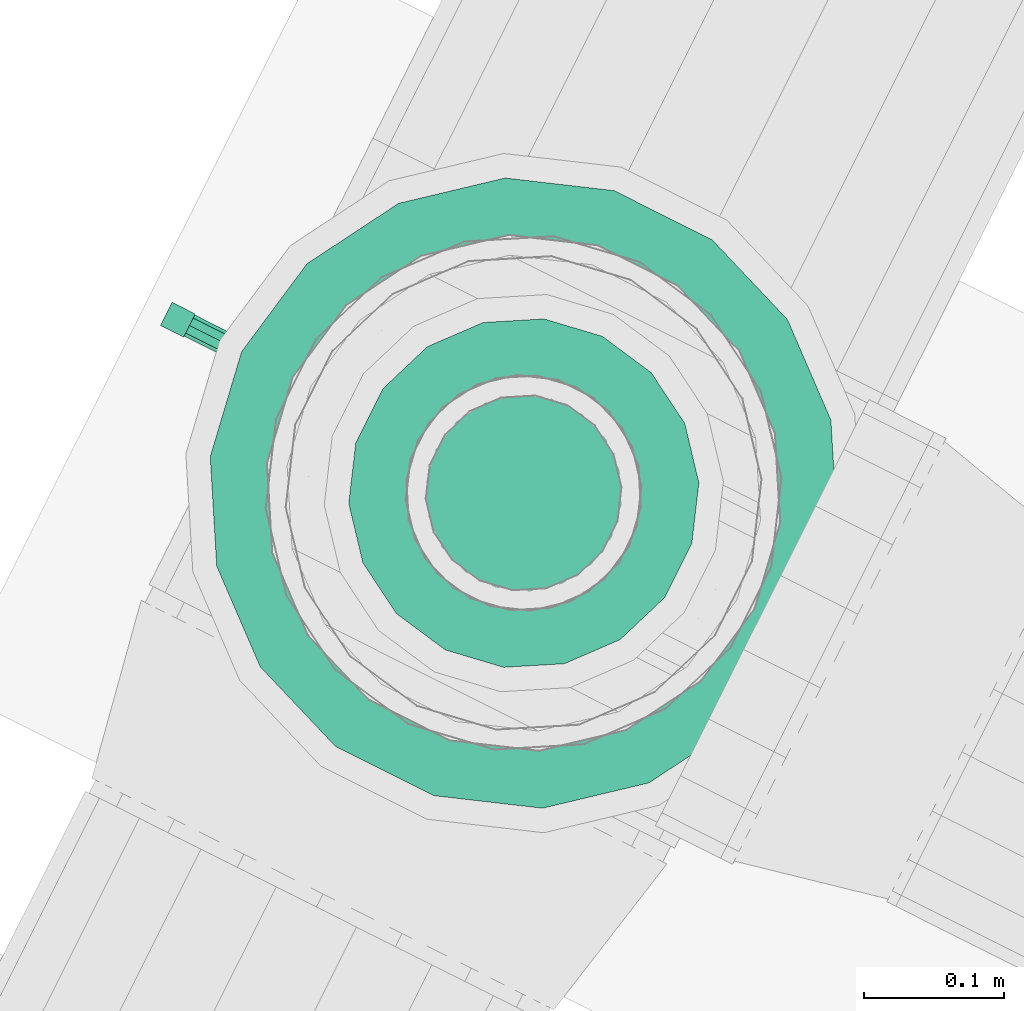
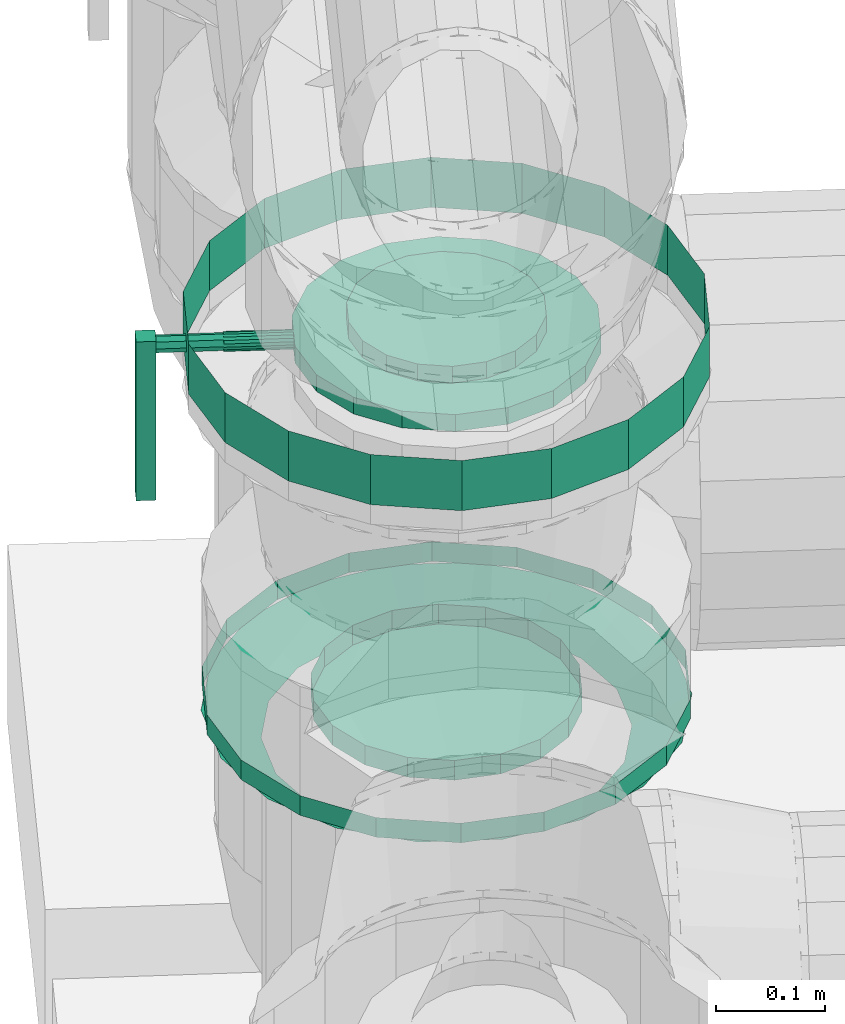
# One storey, part 106 of 152: 1 flow controller, 1 flow fitting.
"""IFC2X3 building model written with IfcOpenShell, lengths in metres."""

from ifc_helpers import new_model, si_unit, derived_unit, direction, frame, origin, place, context, subcontext, project, spatial, face_set, surface_model, source, transform, mapped, material, type_object, type_shapes, element, save


model = new_model("IFC2X3")

# Units and contexts
model_context = context("Model", 3, precision=5.2338327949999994e-05, world=origin(), true_north=direction((0.0, 1.0)))
body_context = subcontext(model_context, "Body", "Model", "MODEL_VIEW")
ifc_project = project(units=[si_unit("LENGTHUNIT", "METRE"), si_unit("AREAUNIT", "SQUARE_METRE"), si_unit("VOLUMEUNIT", "CUBIC_METRE"), si_unit("MASSUNIT", "GRAM", prefix="KILO"), si_unit("PLANEANGLEUNIT", "RADIAN"), derived_unit("THERMALTRANSMITTANCEUNIT", [(si_unit("MASSUNIT", "GRAM", prefix="KILO"), 1), (si_unit("THERMODYNAMICTEMPERATUREUNIT", "KELVIN"), -1), (si_unit("TIMEUNIT", "SECOND"), -3)])], contexts=[model_context])

# Site, building, storey
site_placement = place(None, frame((0.0, 0.0, 0.0), z_axis=(0.0, 0.0, 1.0), x_axis=(0.8939966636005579, -0.4480736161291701, 0.0)))
site = spatial("IfcSite", under=ifc_project, at=site_placement, Name="Default", CompositionType="ELEMENT")
building_placement = place(site_placement, origin())
building = spatial("IfcBuilding", under=site, at=building_placement, CompositionType="ELEMENT")
storey_placement = place(building_placement, frame((0.0, 0.0, 2.7499999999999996)))
storey = spatial("IfcBuildingStorey", under=building, at=storey_placement, Name="1. Obergeschoss", CompositionType="ELEMENT", Elevation=2.7499999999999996)

# Flow fitting
ifc_material = material(Name="IfcSurfaceStyle #9317")
distribution_element_type_1 = type_object("IfcDistributionElementType", Name="Flansch 236886:Flansch 236886", material=ifc_material)
shared_shape_1 = source(origin(), body_context, "Body", "SurfaceModel", [
    surface_model("IfcFaceBasedSurfaceModel", [(9.555920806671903, 6.591748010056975, 4.120071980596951), (9.560133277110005, 6.5678579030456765, 4.12007198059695), (9.552474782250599, 6.565070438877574, 4.15307198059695), (9.5477708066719, 6.591748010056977, 4.153071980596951), (9.572262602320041, 6.546849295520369, 4.12007198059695), (9.56601934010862, 6.541610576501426, 4.15307198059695), (9.5908458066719, 6.53125613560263, 4.12007198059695), (9.586770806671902, 6.524198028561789, 4.15307198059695), (9.613641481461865, 6.5229591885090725, 4.12007198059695), (9.61222624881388, 6.514933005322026, 4.15307198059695), (9.637900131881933, 6.522959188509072, 4.12007198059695), (9.639315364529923, 6.514933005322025, 4.15307198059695), (9.6606958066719, 6.5312561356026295, 4.120071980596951), (9.664770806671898, 6.524198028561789, 4.15307198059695), (9.679279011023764, 6.54684929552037, 4.120071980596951), (9.685522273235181, 6.5416105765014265, 4.15307198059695), (9.691408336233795, 6.567857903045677, 4.120071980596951), (9.6990668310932, 6.565070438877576, 4.15307198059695), (9.6956208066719, 6.591748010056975, 4.120071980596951), (9.7037708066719, 6.591748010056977, 4.15307198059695), (9.691408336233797, 6.615638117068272, 4.120071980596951), (9.699066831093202, 6.618425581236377, 4.15307198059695), (9.679279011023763, 6.636646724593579, 4.120071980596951), (9.685522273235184, 6.641885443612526, 4.15307198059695), (9.6606958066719, 6.652239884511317, 4.12007198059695), (9.6647708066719, 6.659297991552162, 4.15307198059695), (9.637900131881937, 6.660536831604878, 4.120071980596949), (9.63931536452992, 6.668563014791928, 4.153071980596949), (9.613641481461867, 6.660536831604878, 4.120071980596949), (9.61222624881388, 6.668563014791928, 4.153071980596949), (9.5908458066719, 6.652239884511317, 4.12007198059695), (9.586770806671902, 6.6592979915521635, 4.15307198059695), (9.57226260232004, 6.636646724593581, 4.120071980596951), (9.566019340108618, 6.641885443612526, 4.15307198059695), (9.560133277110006, 6.615638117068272, 4.12007198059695), (9.552474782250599, 6.618425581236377, 4.15307198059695), (9.625770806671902, 6.716748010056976, 4.15307198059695), (9.583018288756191, 6.709209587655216, 4.15307198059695), (9.583018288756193, 6.709209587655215, 4.175071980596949), (9.625770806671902, 6.716748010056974, 4.175071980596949), (9.545422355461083, 6.687503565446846, 4.15307198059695), (9.545422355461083, 6.687503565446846, 4.175071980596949), (9.517517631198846, 6.654248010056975, 4.15307198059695), (9.517517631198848, 6.654248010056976, 4.175071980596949), (9.502669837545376, 6.613454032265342, 4.15307198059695), (9.502669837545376, 6.613454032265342, 4.175071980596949), (9.502669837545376, 6.570041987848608, 4.15307198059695), (9.502669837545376, 6.570041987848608, 4.175071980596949), (9.517517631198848, 6.529248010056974, 4.15307198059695), (9.517517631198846, 6.5292480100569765, 4.175071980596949), (9.545422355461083, 6.495992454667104, 4.15307198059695), (9.545422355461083, 6.495992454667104, 4.175071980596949), (9.583018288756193, 6.474286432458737, 4.15307198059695), (9.583018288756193, 6.474286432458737, 4.175071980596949), (9.6257708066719, 6.466748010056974, 4.15307198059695), (9.6257708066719, 6.466748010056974, 4.175071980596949), (9.668523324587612, 6.474286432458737, 4.15307198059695), (9.668523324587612, 6.474286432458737, 4.175071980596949), (9.706119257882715, 6.495992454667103, 4.15307198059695), (9.706119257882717, 6.495992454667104, 4.175071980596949), (9.734023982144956, 6.529248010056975, 4.15307198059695), (9.734023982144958, 6.529248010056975, 4.175071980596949), (9.748871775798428, 6.570041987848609, 4.15307198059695), (9.748871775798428, 6.570041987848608, 4.175071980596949), (9.74887177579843, 6.6134540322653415, 4.15307198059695), (9.748871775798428, 6.6134540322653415, 4.175071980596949), (9.734023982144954, 6.654248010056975, 4.15307198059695), (9.734023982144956, 6.654248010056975, 4.175071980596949), (9.70611925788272, 6.687503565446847, 4.15307198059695), (9.70611925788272, 6.687503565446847, 4.175071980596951), (9.66852332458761, 6.709209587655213, 4.15307198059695), (9.66852332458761, 6.709209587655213, 4.175071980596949), (9.625770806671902, 6.591748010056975, 4.15307198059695), (9.4559208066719, 6.591748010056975, 4.120071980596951), (9.466164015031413, 6.533655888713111, 4.120071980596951), (9.414339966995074, 6.514793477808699, 4.15307198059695), (9.400770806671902, 6.591748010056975, 4.15307198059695), (9.495658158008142, 6.482570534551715, 4.120071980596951), (9.45341080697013, 6.447120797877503, 4.15307198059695), (9.540845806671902, 6.444653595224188, 4.12007198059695), (9.513270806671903, 6.396892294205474, 4.15307198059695), (9.596276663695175, 6.424478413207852, 4.12007198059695), (9.586699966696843, 6.370166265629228, 4.153071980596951), (9.655264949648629, 6.424478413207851, 4.12007198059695), (9.664841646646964, 6.370166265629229, 4.15307198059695), (9.710695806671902, 6.444653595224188, 4.120071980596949), (9.738270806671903, 6.3968922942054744, 4.15307198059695), (9.755883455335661, 6.482570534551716, 4.120071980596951), (9.798130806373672, 6.447120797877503, 4.15307198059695), (9.785377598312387, 6.53365588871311, 4.12007198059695), (9.837201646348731, 6.514793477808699, 4.15307198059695), (9.795620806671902, 6.591748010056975, 4.120071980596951), (9.850770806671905, 6.5917480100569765, 4.15307198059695), (9.785377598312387, 6.649840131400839, 4.120071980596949), (9.837201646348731, 6.668702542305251, 4.15307198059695), (9.755883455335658, 6.700925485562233, 4.12007198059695), (9.798130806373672, 6.736375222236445, 4.153071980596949), (9.7106958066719, 6.7388424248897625, 4.120071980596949), (9.738270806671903, 6.786603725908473, 4.153071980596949), (9.65526494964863, 6.759017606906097, 4.120071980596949), (9.664841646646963, 6.81332975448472, 4.153071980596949), (9.596276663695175, 6.759017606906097, 4.120071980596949), (9.586699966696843, 6.813329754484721, 4.153071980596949), (9.540845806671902, 6.7388424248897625, 4.12007198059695), (9.513270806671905, 6.786603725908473, 4.153071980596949), (9.495658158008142, 6.700925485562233, 4.12007198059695), (9.45341080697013, 6.736375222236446, 4.15307198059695), (9.466164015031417, 6.649840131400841, 4.120071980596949), (9.414339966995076, 6.668702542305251, 4.153071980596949), (9.6257708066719, 6.8167480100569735, 4.15307198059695), (9.548816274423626, 6.803178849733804, 4.15307198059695), (9.548816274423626, 6.803178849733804, 4.175071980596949), (9.6257708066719, 6.8167480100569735, 4.175071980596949), (9.481143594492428, 6.764108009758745, 4.15307198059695), (9.48114359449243, 6.764108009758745, 4.175071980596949), (9.4309150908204, 6.7042480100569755, 4.15307198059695), (9.4309150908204, 6.704248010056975, 4.175071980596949), (9.404189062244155, 6.630818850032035, 4.15307198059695), (9.404189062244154, 6.630818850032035, 4.175071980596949), (9.404189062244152, 6.552677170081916, 4.15307198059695), (9.404189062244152, 6.552677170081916, 4.175071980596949), (9.430915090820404, 6.479248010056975, 4.15307198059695), (9.430915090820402, 6.479248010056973, 4.175071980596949), (9.481143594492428, 6.4193880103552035, 4.15307198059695), (9.481143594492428, 6.419388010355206, 4.175071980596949), (9.548816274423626, 6.380317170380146, 4.15307198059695), (9.548816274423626, 6.380317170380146, 4.175071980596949), (9.6257708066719, 6.366748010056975, 4.15307198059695), (9.625770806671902, 6.366748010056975, 4.17507198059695), (9.702725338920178, 6.380317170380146, 4.15307198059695), (9.702725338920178, 6.380317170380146, 4.17507198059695), (9.770398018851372, 6.4193880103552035, 4.15307198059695), (9.77039801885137, 6.419388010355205, 4.175071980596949), (9.820626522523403, 6.479248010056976, 4.15307198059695), (9.820626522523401, 6.479248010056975, 4.175071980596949), (9.84735255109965, 6.552677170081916, 4.15307198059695), (9.84735255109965, 6.552677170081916, 4.175071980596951), (9.84735255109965, 6.630818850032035, 4.15307198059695), (9.84735255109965, 6.630818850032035, 4.175071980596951), (9.820626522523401, 6.7042480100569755, 4.153071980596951), (9.820626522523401, 6.7042480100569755, 4.17507198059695), (9.77039801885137, 6.764108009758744, 4.15307198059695), (9.770398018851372, 6.764108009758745, 4.17507198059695), (9.702725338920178, 6.803178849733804, 4.15307198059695), (9.702725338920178, 6.803178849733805, 4.175071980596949)], [face_set([[[0, 1, 2, 3]], [[1, 4, 5, 2]], [[4, 6, 7, 5]], [[6, 8, 9, 7]], [[8, 10, 11, 9]], [[10, 12, 13, 11]], [[12, 14, 15, 13]], [[14, 16, 17, 15]], [[16, 18, 19, 17]], [[18, 20, 21, 19]], [[20, 22, 23, 21]], [[22, 24, 25, 23]], [[24, 26, 27, 25]], [[26, 28, 29, 27]], [[28, 30, 31, 29]], [[30, 32, 33, 31]], [[32, 34, 35, 33]], [[34, 0, 3, 35]], [[36, 37, 38, 39]], [[37, 40, 41, 38]], [[40, 42, 43, 41]], [[42, 44, 45, 43]], [[44, 46, 47, 45]], [[46, 48, 49, 47]], [[48, 50, 51, 49]], [[50, 52, 53, 51]], [[52, 54, 55, 53]], [[54, 56, 57, 55]], [[56, 58, 59, 57]], [[58, 60, 61, 59]], [[60, 62, 63, 61]], [[62, 64, 65, 63]], [[64, 66, 67, 65]], [[66, 68, 69, 67]], [[68, 70, 71, 69]], [[70, 36, 39, 71]], [[72, 37, 36]], [[72, 40, 37]], [[72, 42, 40]], [[72, 44, 42]], [[72, 46, 44]], [[72, 48, 46]], [[72, 50, 48]], [[72, 52, 50]], [[72, 54, 52]], [[72, 56, 54]], [[72, 58, 56]], [[72, 60, 58]], [[72, 62, 60]], [[72, 64, 62]], [[72, 66, 64]], [[72, 68, 66]], [[72, 70, 68]], [[72, 36, 70]], [[73, 74, 75, 76]], [[74, 77, 78, 75]], [[77, 79, 80, 78]], [[79, 81, 82, 80]], [[81, 83, 84, 82]], [[83, 85, 86, 84]], [[85, 87, 88, 86]], [[87, 89, 90, 88]], [[89, 91, 92, 90]], [[91, 93, 94, 92]], [[93, 95, 96, 94]], [[95, 97, 98, 96]], [[97, 99, 100, 98]], [[99, 101, 102, 100]], [[101, 103, 104, 102]], [[103, 105, 106, 104]], [[105, 107, 108, 106]], [[107, 73, 76, 108]], [[109, 110, 111, 112]], [[110, 113, 114, 111]], [[113, 115, 116, 114]], [[115, 117, 118, 116]], [[117, 119, 120, 118]], [[119, 121, 122, 120]], [[121, 123, 124, 122]], [[123, 125, 126, 124]], [[125, 127, 128, 126]], [[127, 129, 130, 128]], [[129, 131, 132, 130]], [[131, 133, 134, 132]], [[133, 135, 136, 134]], [[135, 137, 138, 136]], [[137, 139, 140, 138]], [[139, 141, 142, 140]], [[141, 143, 144, 142]], [[143, 109, 112, 144]]])]),
])
type_shapes(distribution_element_type_1, [shared_shape_1])
flow_fitting_placement = place(storey_placement, frame((0.0, 0.0, -2.7499999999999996)))
element("IfcFlowFitting", 1, at=flow_fitting_placement, inside=storey, type_object=distribution_element_type_1, material=ifc_material, Name="Flansch", ObjectType="Flansch", context=body_context, shape_type="MappedRepresentation", body=[
    mapped(shared_shape_1, transform((0.0, 0.0, 0.0), scale=1.0)),
])

# Flow controller
distribution_element_type_2 = type_object("IfcDistributionElementType", Name="Zwischenflanschklappe 236909:Zwischenflanschklappe 236909", material=ifc_material)
shared_shape_2 = source(origin(), body_context, "Body", "SurfaceModel", [
    surface_model("IfcFaceBasedSurfaceModel", [(9.359170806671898, 6.600948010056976, 4.396006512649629), (9.359170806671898, 6.600948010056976, 4.5735065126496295), (9.359170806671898, 6.582548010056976, 4.5735065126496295), (9.359170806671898, 6.582548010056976, 4.396006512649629), (9.340770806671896, 6.582548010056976, 4.5735065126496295), (9.340770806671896, 6.582548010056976, 4.396006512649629), (9.340770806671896, 6.600948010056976, 4.5735065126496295), (9.340770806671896, 6.600948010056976, 4.396006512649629), (9.625770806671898, 6.499748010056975, 4.536306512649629), (9.657236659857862, 6.505296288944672, 4.536306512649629), (9.657236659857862, 6.505296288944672, 4.554973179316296), (9.625770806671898, 6.499748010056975, 4.554973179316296), (9.68490726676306, 6.521271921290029, 4.536306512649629), (9.68490726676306, 6.521271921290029, 4.554973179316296), (9.705445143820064, 6.545748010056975, 4.536306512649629), (9.705445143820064, 6.545748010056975, 4.554973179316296), (9.71637311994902, 6.575772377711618, 4.536306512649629), (9.71637311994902, 6.575772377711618, 4.554973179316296), (9.71637311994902, 6.607723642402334, 4.536306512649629), (9.71637311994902, 6.607723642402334, 4.554973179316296), (9.705445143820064, 6.637748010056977, 4.536306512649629), (9.705445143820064, 6.637748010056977, 4.554973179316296), (9.68490726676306, 6.662224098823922, 4.536306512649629), (9.68490726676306, 6.662224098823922, 4.554973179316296), (9.657236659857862, 6.67819973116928, 4.536306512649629), (9.657236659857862, 6.67819973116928, 4.554973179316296), (9.625770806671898, 6.683748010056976, 4.536306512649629), (9.625770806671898, 6.683748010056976, 4.554973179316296), (9.594304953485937, 6.67819973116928, 4.536306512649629), (9.594304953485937, 6.67819973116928, 4.554973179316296), (9.566634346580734, 6.662224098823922, 4.536306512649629), (9.566634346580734, 6.662224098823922, 4.554973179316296), (9.54609646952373, 6.637748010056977, 4.536306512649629), (9.54609646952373, 6.637748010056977, 4.554973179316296), (9.535168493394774, 6.607723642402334, 4.536306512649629), (9.535168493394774, 6.607723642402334, 4.554973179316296), (9.535168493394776, 6.575772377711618, 4.536306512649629), (9.535168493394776, 6.575772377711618, 4.554973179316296), (9.54609646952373, 6.545748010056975, 4.536306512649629), (9.54609646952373, 6.545748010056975, 4.554973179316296), (9.566634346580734, 6.521271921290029, 4.536306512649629), (9.566634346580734, 6.521271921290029, 4.554973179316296), (9.594304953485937, 6.505296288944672, 4.536306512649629), (9.594304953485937, 6.505296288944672, 4.554973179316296), (9.625770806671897, 6.5917480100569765, 4.536306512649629), (9.625770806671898, 6.5917480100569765, 4.554973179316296), (9.625770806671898, 6.449248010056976, 4.554973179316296), (9.674508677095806, 6.457841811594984, 4.554973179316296), (9.674508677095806, 6.457841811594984, 4.573639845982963), (9.625770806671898, 6.449248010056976, 4.573639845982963), (9.717368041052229, 6.482586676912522, 4.554973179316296), (9.717368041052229, 6.482586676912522, 4.573639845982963), (9.749179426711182, 6.5204980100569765, 4.554973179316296), (9.749179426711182, 6.5204980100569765, 4.573639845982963), (9.766105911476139, 6.567003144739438, 4.554973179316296), (9.766105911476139, 6.567003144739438, 4.573639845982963), (9.766105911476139, 6.616492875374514, 4.554973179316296), (9.766105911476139, 6.616492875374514, 4.573639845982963), (9.74917942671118, 6.662998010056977, 4.554973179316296), (9.74917942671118, 6.662998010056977, 4.573639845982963), (9.717368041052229, 6.70090934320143, 4.554973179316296), (9.717368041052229, 6.70090934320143, 4.573639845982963), (9.674508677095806, 6.725654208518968, 4.554973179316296), (9.674508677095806, 6.725654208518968, 4.573639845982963), (9.625770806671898, 6.734248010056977, 4.554973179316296), (9.625770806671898, 6.734248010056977, 4.573639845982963), (9.577032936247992, 6.725654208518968, 4.554973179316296), (9.577032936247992, 6.725654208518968, 4.573639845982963), (9.534173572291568, 6.70090934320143, 4.554973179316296), (9.534173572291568, 6.70090934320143, 4.573639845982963), (9.502362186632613, 6.662998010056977, 4.554973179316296), (9.502362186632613, 6.662998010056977, 4.573639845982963), (9.485435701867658, 6.616492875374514, 4.554973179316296), (9.485435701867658, 6.616492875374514, 4.573639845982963), (9.485435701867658, 6.567003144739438, 4.554973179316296), (9.485435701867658, 6.567003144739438, 4.573639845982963), (9.502362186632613, 6.5204980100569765, 4.554973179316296), (9.502362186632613, 6.5204980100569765, 4.573639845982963), (9.534173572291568, 6.482586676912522, 4.554973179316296), (9.534173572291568, 6.482586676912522, 4.573639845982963), (9.577032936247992, 6.457841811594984, 4.554973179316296), (9.577032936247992, 6.457841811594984, 4.573639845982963), (9.625770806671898, 6.5917480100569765, 4.573639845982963), (9.625770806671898, 6.499748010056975, 4.573639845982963), (9.657236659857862, 6.505296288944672, 4.573639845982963), (9.657236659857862, 6.505296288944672, 4.59230651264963), (9.625770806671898, 6.499748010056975, 4.59230651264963), (9.68490726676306, 6.521271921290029, 4.573639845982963), (9.68490726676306, 6.521271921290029, 4.59230651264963), (9.705445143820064, 6.545748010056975, 4.573639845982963), (9.705445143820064, 6.545748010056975, 4.59230651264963), (9.71637311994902, 6.575772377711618, 4.573639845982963), (9.71637311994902, 6.575772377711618, 4.59230651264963), (9.71637311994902, 6.607723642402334, 4.573639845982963), (9.71637311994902, 6.607723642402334, 4.59230651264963), (9.705445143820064, 6.637748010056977, 4.573639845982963), (9.705445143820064, 6.637748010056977, 4.59230651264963), (9.68490726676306, 6.662224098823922, 4.573639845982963), (9.68490726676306, 6.662224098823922, 4.59230651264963), (9.657236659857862, 6.67819973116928, 4.573639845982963), (9.657236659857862, 6.67819973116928, 4.59230651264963), (9.625770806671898, 6.683748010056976, 4.573639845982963), (9.625770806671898, 6.683748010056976, 4.59230651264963), (9.594304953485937, 6.67819973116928, 4.573639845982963), (9.594304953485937, 6.67819973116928, 4.59230651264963), (9.566634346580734, 6.662224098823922, 4.573639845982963), (9.566634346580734, 6.662224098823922, 4.59230651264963), (9.54609646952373, 6.637748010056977, 4.573639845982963), (9.54609646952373, 6.637748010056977, 4.59230651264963), (9.535168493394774, 6.607723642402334, 4.573639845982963), (9.535168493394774, 6.607723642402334, 4.59230651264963), (9.535168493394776, 6.575772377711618, 4.573639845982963), (9.535168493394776, 6.575772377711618, 4.59230651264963), (9.54609646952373, 6.545748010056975, 4.573639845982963), (9.54609646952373, 6.545748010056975, 4.59230651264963), (9.566634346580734, 6.521271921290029, 4.573639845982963), (9.566634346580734, 6.521271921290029, 4.59230651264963), (9.594304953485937, 6.505296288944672, 4.573639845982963), (9.594304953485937, 6.505296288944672, 4.59230651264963), (9.625770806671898, 6.5917480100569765, 4.592306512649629), (9.625770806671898, 6.582414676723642, 4.56430651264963), (9.625770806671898, 6.582977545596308, 4.567498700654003), (9.421220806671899, 6.582977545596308, 4.567498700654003), (9.421220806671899, 6.582414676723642, 4.56430651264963), (9.625770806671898, 6.584598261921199, 4.57030586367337), (9.421220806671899, 6.584598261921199, 4.57030586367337), (9.625770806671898, 6.5870813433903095, 4.572389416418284), (9.421220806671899, 6.5870813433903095, 4.572389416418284), (9.625770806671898, 6.590127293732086, 4.573498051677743), (9.421220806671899, 6.590127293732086, 4.573498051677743), (9.625770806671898, 6.5933687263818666, 4.573498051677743), (9.421220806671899, 6.5933687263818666, 4.573498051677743), (9.625770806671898, 6.596414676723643, 4.572389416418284), (9.421220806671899, 6.596414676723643, 4.572389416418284), (9.625770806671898, 6.598897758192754, 4.57030586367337), (9.421220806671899, 6.598897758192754, 4.57030586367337), (9.625770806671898, 6.600518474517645, 4.567498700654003), (9.421220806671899, 6.600518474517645, 4.567498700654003), (9.625770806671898, 6.60108134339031, 4.56430651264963), (9.421220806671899, 6.60108134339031, 4.56430651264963), (9.625770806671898, 6.600518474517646, 4.561114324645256), (9.421220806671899, 6.600518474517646, 4.561114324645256), (9.625770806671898, 6.598897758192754, 4.558307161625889), (9.421220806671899, 6.598897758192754, 4.558307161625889), (9.625770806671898, 6.596414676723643, 4.556223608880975), (9.421220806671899, 6.596414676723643, 4.556223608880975), (9.625770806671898, 6.5933687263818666, 4.555114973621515), (9.421220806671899, 6.5933687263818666, 4.555114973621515), (9.625770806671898, 6.590127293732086, 4.555114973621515), (9.421220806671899, 6.590127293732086, 4.555114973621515), (9.625770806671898, 6.5870813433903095, 4.556223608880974), (9.421220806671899, 6.5870813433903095, 4.556223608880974), (9.625770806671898, 6.584598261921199, 4.558307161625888), (9.421220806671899, 6.584598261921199, 4.558307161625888), (9.625770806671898, 6.582977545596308, 4.561114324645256), (9.421220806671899, 6.582977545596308, 4.561114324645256), (9.625770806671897, 6.5917480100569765, 4.56430651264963), (9.421220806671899, 6.5917480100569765, 4.56430651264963), (9.421220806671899, 6.583333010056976, 4.56430651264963), (9.421220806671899, 6.585797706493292, 4.570256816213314), (9.359170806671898, 6.585797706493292, 4.570256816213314), (9.359170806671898, 6.583333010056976, 4.56430651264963), (9.421220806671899, 6.5917480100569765, 4.57272151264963), (9.359170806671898, 6.5917480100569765, 4.57272151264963), (9.421220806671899, 6.59769831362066, 4.570256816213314), (9.359170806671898, 6.59769831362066, 4.570256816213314), (9.421220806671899, 6.600163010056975, 4.56430651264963), (9.359170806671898, 6.600163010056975, 4.56430651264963), (9.421220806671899, 6.59769831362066, 4.558356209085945), (9.359170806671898, 6.59769831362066, 4.558356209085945), (9.421220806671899, 6.5917480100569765, 4.555891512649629), (9.359170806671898, 6.5917480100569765, 4.555891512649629), (9.421220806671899, 6.585797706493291, 4.558356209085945), (9.359170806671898, 6.585797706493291, 4.558356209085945), (9.359170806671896, 6.5917480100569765, 4.56430651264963), (9.625770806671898, 6.349248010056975, 4.536306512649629), (9.708710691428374, 6.363872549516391, 4.536306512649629), (9.708710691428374, 6.363872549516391, 4.59230651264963), (9.625770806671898, 6.349248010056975, 4.59230651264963), (9.781646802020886, 6.405982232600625, 4.536306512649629), (9.781646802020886, 6.405982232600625, 4.59230651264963), (9.835781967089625, 6.470498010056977, 4.536306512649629), (9.835781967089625, 6.470498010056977, 4.59230651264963), (9.864586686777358, 6.549638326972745, 4.536306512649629), (9.864586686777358, 6.549638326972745, 4.59230651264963), (9.864586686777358, 6.633857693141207, 4.536306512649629), (9.864586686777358, 6.633857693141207, 4.59230651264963), (9.835781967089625, 6.7129980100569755, 4.536306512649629), (9.835781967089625, 6.7129980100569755, 4.59230651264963), (9.781646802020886, 6.777513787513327, 4.536306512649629), (9.781646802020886, 6.777513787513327, 4.59230651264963), (9.708710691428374, 6.819623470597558, 4.536306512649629), (9.708710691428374, 6.819623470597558, 4.59230651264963), (9.625770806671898, 6.834248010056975, 4.536306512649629), (9.625770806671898, 6.834248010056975, 4.59230651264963), (9.542830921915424, 6.819623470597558, 4.536306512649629), (9.542830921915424, 6.819623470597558, 4.59230651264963), (9.469894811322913, 6.777513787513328, 4.536306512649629), (9.469894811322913, 6.777513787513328, 4.59230651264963), (9.415759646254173, 6.7129980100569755, 4.536306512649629), (9.415759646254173, 6.7129980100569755, 4.59230651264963), (9.386954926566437, 6.633857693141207, 4.536306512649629), (9.386954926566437, 6.633857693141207, 4.59230651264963), (9.386954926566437, 6.549638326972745, 4.536306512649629), (9.386954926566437, 6.549638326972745, 4.59230651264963), (9.41575964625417, 6.470498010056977, 4.536306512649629), (9.41575964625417, 6.470498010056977, 4.59230651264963), (9.469894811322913, 6.405982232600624, 4.536306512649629), (9.469894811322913, 6.405982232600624, 4.59230651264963), (9.542830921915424, 6.363872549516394, 4.536306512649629), (9.542830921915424, 6.363872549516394, 4.59230651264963)], [face_set([[[0, 1, 2, 3]], [[3, 2, 4, 5]], [[5, 4, 6, 7]], [[7, 6, 1, 0]], [[0, 3, 5, 7]], [[6, 4, 2, 1]], [[8, 9, 10, 11]], [[9, 12, 13, 10]], [[12, 14, 15, 13]], [[14, 16, 17, 15]], [[16, 18, 19, 17]], [[18, 20, 21, 19]], [[20, 22, 23, 21]], [[22, 24, 25, 23]], [[24, 26, 27, 25]], [[26, 28, 29, 27]], [[28, 30, 31, 29]], [[30, 32, 33, 31]], [[32, 34, 35, 33]], [[34, 36, 37, 35]], [[36, 38, 39, 37]], [[38, 40, 41, 39]], [[40, 42, 43, 41]], [[42, 8, 11, 43]], [[44, 9, 8]], [[44, 12, 9]], [[44, 14, 12]], [[44, 16, 14]], [[44, 18, 16]], [[44, 20, 18]], [[44, 22, 20]], [[44, 24, 22]], [[44, 26, 24]], [[44, 28, 26]], [[44, 30, 28]], [[44, 32, 30]], [[44, 34, 32]], [[44, 36, 34]], [[44, 38, 36]], [[44, 40, 38]], [[44, 42, 40]], [[44, 8, 42]], [[45, 43, 11]], [[45, 41, 43]], [[45, 39, 41]], [[45, 37, 39]], [[45, 35, 37]], [[45, 33, 35]], [[45, 31, 33]], [[45, 29, 31]], [[45, 27, 29]], [[45, 25, 27]], [[45, 23, 25]], [[45, 21, 23]], [[45, 19, 21]], [[45, 17, 19]], [[45, 15, 17]], [[45, 13, 15]], [[45, 10, 13]], [[45, 11, 10]], [[46, 47, 48, 49]], [[47, 50, 51, 48]], [[50, 52, 53, 51]], [[52, 54, 55, 53]], [[54, 56, 57, 55]], [[56, 58, 59, 57]], [[58, 60, 61, 59]], [[60, 62, 63, 61]], [[62, 64, 65, 63]], [[64, 66, 67, 65]], [[66, 68, 69, 67]], [[68, 70, 71, 69]], [[70, 72, 73, 71]], [[72, 74, 75, 73]], [[74, 76, 77, 75]], [[76, 78, 79, 77]], [[78, 80, 81, 79]], [[80, 46, 49, 81]], [[45, 47, 46]], [[45, 50, 47]], [[45, 52, 50]], [[45, 54, 52]], [[45, 56, 54]], [[45, 58, 56]], [[45, 60, 58]], [[45, 62, 60]], [[45, 64, 62]], [[45, 66, 64]], [[45, 68, 66]], [[45, 70, 68]], [[45, 72, 70]], [[45, 74, 72]], [[45, 76, 74]], [[45, 78, 76]], [[45, 80, 78]], [[45, 46, 80]], [[82, 81, 49]], [[82, 79, 81]], [[82, 77, 79]], [[82, 75, 77]], [[82, 73, 75]], [[82, 71, 73]], [[82, 69, 71]], [[82, 67, 69]], [[82, 65, 67]], [[82, 63, 65]], [[82, 61, 63]], [[82, 59, 61]], [[82, 57, 59]], [[82, 55, 57]], [[82, 53, 55]], [[82, 51, 53]], [[82, 48, 51]], [[82, 49, 48]], [[83, 84, 85, 86]], [[84, 87, 88, 85]], [[87, 89, 90, 88]], [[89, 91, 92, 90]], [[91, 93, 94, 92]], [[93, 95, 96, 94]], [[95, 97, 98, 96]], [[97, 99, 100, 98]], [[99, 101, 102, 100]], [[101, 103, 104, 102]], [[103, 105, 106, 104]], [[105, 107, 108, 106]], [[107, 109, 110, 108]], [[109, 111, 112, 110]], [[111, 113, 114, 112]], [[113, 115, 116, 114]], [[115, 117, 118, 116]], [[117, 83, 86, 118]], [[82, 84, 83]], [[82, 87, 84]], [[82, 89, 87]], [[82, 91, 89]], [[82, 93, 91]], [[82, 95, 93]], [[82, 97, 95]], [[82, 99, 97]], [[82, 101, 99]], [[82, 103, 101]], [[82, 105, 103]], [[82, 107, 105]], [[82, 109, 107]], [[82, 111, 109]], [[82, 113, 111]], [[82, 115, 113]], [[82, 117, 115]], [[82, 83, 117]], [[119, 118, 86]], [[119, 116, 118]], [[119, 114, 116]], [[119, 112, 114]], [[119, 110, 112]], [[119, 108, 110]], [[119, 106, 108]], [[119, 104, 106]], [[119, 102, 104]], [[119, 100, 102]], [[119, 98, 100]], [[119, 96, 98]], [[119, 94, 96]], [[119, 92, 94]], [[119, 90, 92]], [[119, 88, 90]], [[119, 85, 88]], [[119, 86, 85]], [[120, 121, 122, 123]], [[121, 124, 125, 122]], [[124, 126, 127, 125]], [[126, 128, 129, 127]], [[128, 130, 131, 129]], [[130, 132, 133, 131]], [[132, 134, 135, 133]], [[134, 136, 137, 135]], [[136, 138, 139, 137]], [[138, 140, 141, 139]], [[140, 142, 143, 141]], [[142, 144, 145, 143]], [[144, 146, 147, 145]], [[146, 148, 149, 147]], [[148, 150, 151, 149]], [[150, 152, 153, 151]], [[152, 154, 155, 153]], [[154, 120, 123, 155]], [[156, 121, 120]], [[156, 124, 121]], [[156, 126, 124]], [[156, 128, 126]], [[156, 130, 128]], [[156, 132, 130]], [[156, 134, 132]], [[156, 136, 134]], [[156, 138, 136]], [[156, 140, 138]], [[156, 142, 140]], [[156, 144, 142]], [[156, 146, 144]], [[156, 148, 146]], [[156, 150, 148]], [[156, 152, 150]], [[156, 154, 152]], [[156, 120, 154]], [[157, 155, 123]], [[157, 153, 155]], [[157, 151, 153]], [[157, 149, 151]], [[157, 147, 149]], [[157, 145, 147]], [[157, 143, 145]], [[157, 141, 143]], [[157, 139, 141]], [[157, 137, 139]], [[157, 135, 137]], [[157, 133, 135]], [[157, 131, 133]], [[157, 129, 131]], [[157, 127, 129]], [[157, 125, 127]], [[157, 122, 125]], [[157, 123, 122]], [[158, 159, 160, 161]], [[159, 162, 163, 160]], [[162, 164, 165, 163]], [[164, 166, 167, 165]], [[166, 168, 169, 167]], [[168, 170, 171, 169]], [[170, 172, 173, 171]], [[172, 158, 161, 173]], [[174, 173, 161]], [[174, 171, 173]], [[174, 169, 171]], [[174, 167, 169]], [[174, 165, 167]], [[174, 163, 165]], [[174, 160, 163]], [[174, 161, 160]], [[175, 176, 177, 178]], [[176, 179, 180, 177]], [[179, 181, 182, 180]], [[181, 183, 184, 182]], [[183, 185, 186, 184]], [[185, 187, 188, 186]], [[187, 189, 190, 188]], [[189, 191, 192, 190]], [[191, 193, 194, 192]], [[193, 195, 196, 194]], [[195, 197, 198, 196]], [[197, 199, 200, 198]], [[199, 201, 202, 200]], [[201, 203, 204, 202]], [[203, 205, 206, 204]], [[205, 207, 208, 206]], [[207, 209, 210, 208]], [[209, 175, 178, 210]]])]),
])
type_shapes(distribution_element_type_2, [shared_shape_2])
flow_controller_placement = place(storey_placement, frame((0.0, 0.0, -2.7499999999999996)))
element("IfcFlowController", 2, at=flow_controller_placement, inside=storey, type_object=distribution_element_type_2, material=ifc_material, Name="Zwischenflanschklappe", ObjectType="Zwischenflanschklappe", context=body_context, shape_type="MappedRepresentation", body=[
    mapped(shared_shape_2, transform((0.0, 0.0, 0.0), scale=1.0)),
])

save(model, "model.ifc")
